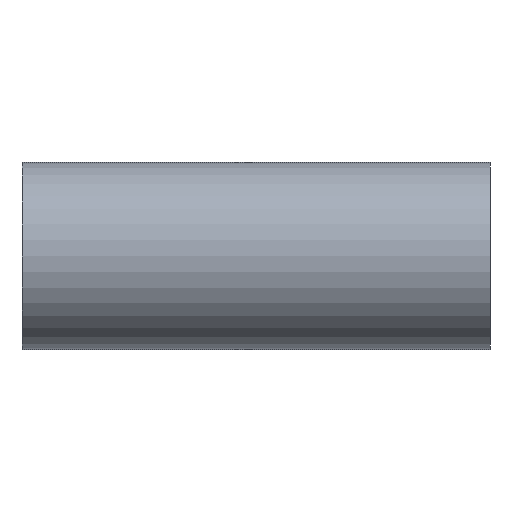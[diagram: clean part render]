
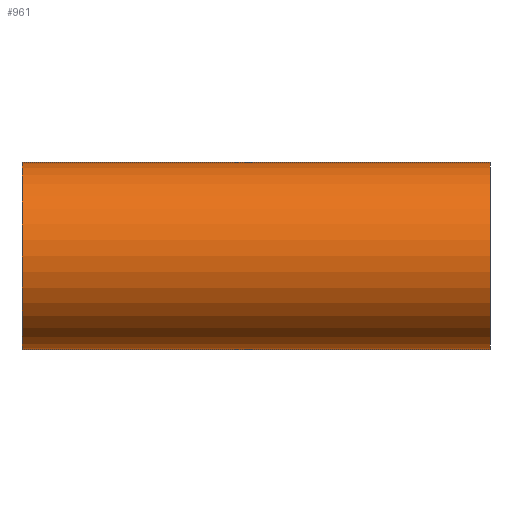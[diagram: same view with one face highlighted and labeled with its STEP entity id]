
A CAD part, front view. The second image highlights one B-rep face of the part: STEP entity #961.
In plain terms, the highlighted cylindrical face has radius 31.75 mm (diameter 63.5 mm), a partial arc.
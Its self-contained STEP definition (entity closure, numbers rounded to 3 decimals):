
#75 = FACE_OUTER_BOUND ( 'NONE', #1093, .T. ) ;
#84 = CARTESIAN_POINT ( 'NONE',  ( 79.4, 0., 31.75 ) ) ;
#88 = AXIS2_PLACEMENT_3D ( 'NONE', #431, #571, #140 ) ;
#107 = CARTESIAN_POINT ( 'NONE',  ( 79.4, 0., 0. ) ) ;
#140 = DIRECTION ( 'NONE',  ( 0., 0., -1. ) ) ;
#198 = DIRECTION ( 'NONE',  ( 0., 0., -1. ) ) ;
#201 = DIRECTION ( 'NONE',  ( -1., 0., 0. ) ) ;
#271 = AXIS2_PLACEMENT_3D ( 'NONE', #816, #808, #621 ) ;
#300 = VERTEX_POINT ( 'NONE', #1095 ) ;
#315 = DIRECTION ( 'NONE',  ( 1., 0., 0. ) ) ;
#316 = VERTEX_POINT ( 'NONE', #868 ) ;
#388 = VERTEX_POINT ( 'NONE', #84 ) ;
#398 = VERTEX_POINT ( 'NONE', #731 ) ;
#431 = CARTESIAN_POINT ( 'NONE',  ( -79.4, 0., 0. ) ) ;
#454 = EDGE_CURVE ( 'NONE', #316, #388, #491, .T. ) ;
#459 = ORIENTED_EDGE ( 'NONE', *, *, #454, .F. ) ;
#491 = LINE ( 'NONE', #569, #818 ) ;
#528 = ORIENTED_EDGE ( 'NONE', *, *, #970, .T. ) ;
#569 = CARTESIAN_POINT ( 'NONE',  ( -79.4, 0., 31.75 ) ) ;
#571 = DIRECTION ( 'NONE',  ( 1., 0., 0. ) ) ;
#611 = CIRCLE ( 'NONE', #271, 31.75 ) ;
#621 = DIRECTION ( 'NONE',  ( 0., 0., -1. ) ) ;
#646 = EDGE_CURVE ( 'NONE', #398, #388, #655, .T. ) ;
#655 = CIRCLE ( 'NONE', #830, 31.75 ) ;
#731 = CARTESIAN_POINT ( 'NONE',  ( 79.4, 0., -31.75 ) ) ;
#766 = LINE ( 'NONE', #1083, #796 ) ;
#796 = VECTOR ( 'NONE', #1077, 1000. ) ;
#808 = DIRECTION ( 'NONE',  ( 1., 0., 0. ) ) ;
#816 = CARTESIAN_POINT ( 'NONE',  ( -79.4, 0., 0. ) ) ;
#818 = VECTOR ( 'NONE', #315, 1000. ) ;
#830 = AXIS2_PLACEMENT_3D ( 'NONE', #107, #201, #198 ) ;
#868 = CARTESIAN_POINT ( 'NONE',  ( -79.4, 0., 31.75 ) ) ;
#961 = ADVANCED_FACE ( 'NONE', ( #75 ), #1087, .T. ) ;
#970 = EDGE_CURVE ( 'NONE', #300, #398, #766, .T. ) ;
#1058 = ORIENTED_EDGE ( 'NONE', *, *, #1179, .T. ) ;
#1077 = DIRECTION ( 'NONE',  ( 1., 0., 0. ) ) ;
#1083 = CARTESIAN_POINT ( 'NONE',  ( -79.4, 0., -31.75 ) ) ;
#1087 = CYLINDRICAL_SURFACE ( 'NONE', #88, 31.75 ) ;
#1093 = EDGE_LOOP ( 'NONE', ( #459, #1058, #528, #1154 ) ) ;
#1095 = CARTESIAN_POINT ( 'NONE',  ( -79.4, 0., -31.75 ) ) ;
#1154 = ORIENTED_EDGE ( 'NONE', *, *, #646, .T. ) ;
#1179 = EDGE_CURVE ( 'NONE', #316, #300, #611, .T. ) ;
